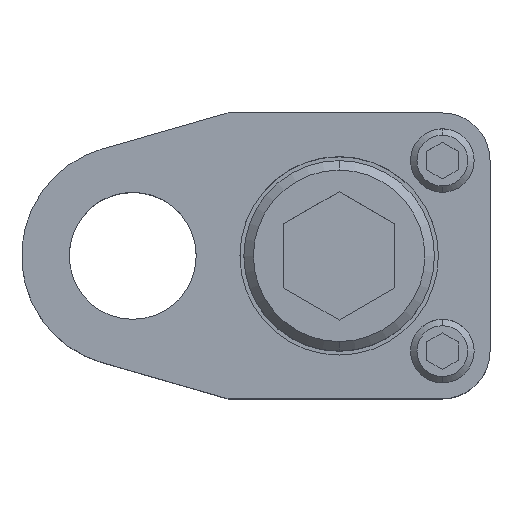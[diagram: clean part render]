
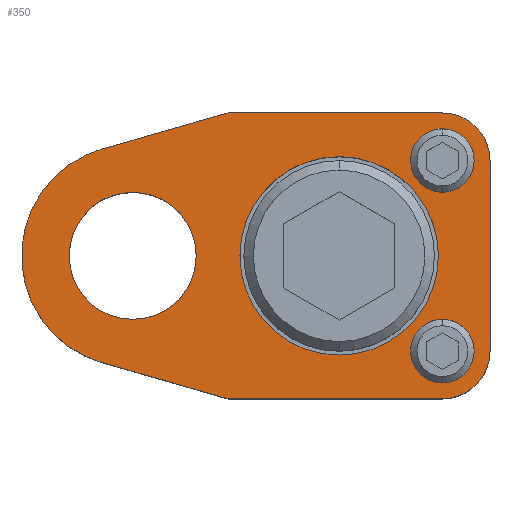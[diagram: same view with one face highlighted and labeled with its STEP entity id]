
A CAD part, top view. The second image highlights one B-rep face of the part: STEP entity #350.
In plain terms, the highlighted planar face has unit normal (0, 0, 1).
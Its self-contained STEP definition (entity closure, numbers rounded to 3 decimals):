
#177=FACE_BOUND('',#611,.T.);
#178=FACE_BOUND('',#612,.T.);
#179=FACE_BOUND('',#613,.T.);
#180=FACE_BOUND('',#614,.T.);
#181=FACE_BOUND('',#615,.T.);
#220=CIRCLE('',#1916,6.);
#223=CIRCLE('',#1922,6.);
#225=CIRCLE('',#1927,14.);
#227=CIRCLE('',#1931,4.);
#229=CIRCLE('',#1934,4.);
#231=CIRCLE('',#1937,4.);
#233=CIRCLE('',#1940,4.);
#238=CIRCLE('',#1948,12.5);
#239=CIRCLE('',#1949,12.5);
#240=CIRCLE('',#1950,8.);
#241=CIRCLE('',#1951,8.);
#350=ADVANCED_FACE('',(#177,#178,#179,#180,#181),#440,.T.);
#440=PLANE('',#1952);
#611=EDGE_LOOP('',(#888,#889,#890,#891,#892,#893,#894,#895));
#612=EDGE_LOOP('',(#896,#897));
#613=EDGE_LOOP('',(#898,#899));
#614=EDGE_LOOP('',(#900,#901));
#615=EDGE_LOOP('',(#902,#903));
#888=ORIENTED_EDGE('',*,*,#1407,.T.);
#889=ORIENTED_EDGE('',*,*,#1411,.T.);
#890=ORIENTED_EDGE('',*,*,#1414,.T.);
#891=ORIENTED_EDGE('',*,*,#1425,.T.);
#892=ORIENTED_EDGE('',*,*,#1433,.T.);
#893=ORIENTED_EDGE('',*,*,#1430,.T.);
#894=ORIENTED_EDGE('',*,*,#1417,.T.);
#895=ORIENTED_EDGE('',*,*,#1421,.T.);
#896=ORIENTED_EDGE('',*,*,#1457,.F.);
#897=ORIENTED_EDGE('',*,*,#1458,.F.);
#898=ORIENTED_EDGE('',*,*,#1450,.F.);
#899=ORIENTED_EDGE('',*,*,#1447,.F.);
#900=ORIENTED_EDGE('',*,*,#1444,.F.);
#901=ORIENTED_EDGE('',*,*,#1441,.F.);
#902=ORIENTED_EDGE('',*,*,#1459,.T.);
#903=ORIENTED_EDGE('',*,*,#1460,.T.);
#1226=VERTEX_POINT('',#2784);
#1227=VERTEX_POINT('',#2786);
#1230=VERTEX_POINT('',#2793);
#1232=VERTEX_POINT('',#2799);
#1234=VERTEX_POINT('',#2805);
#1235=VERTEX_POINT('',#2807);
#1240=VERTEX_POINT('',#2821);
#1244=VERTEX_POINT('',#2832);
#1250=VERTEX_POINT('',#2856);
#1251=VERTEX_POINT('',#2858);
#1254=VERTEX_POINT('',#2868);
#1255=VERTEX_POINT('',#2870);
#1260=VERTEX_POINT('',#2889);
#1261=VERTEX_POINT('',#2890);
#1262=VERTEX_POINT('',#2893);
#1263=VERTEX_POINT('',#2894);
#1407=EDGE_CURVE('',#1227,#1226,#1637,.T.);
#1411=EDGE_CURVE('',#1226,#1230,#220,.T.);
#1414=EDGE_CURVE('',#1230,#1232,#1642,.T.);
#1417=EDGE_CURVE('',#1235,#1234,#1645,.T.);
#1421=EDGE_CURVE('',#1234,#1227,#223,.T.);
#1425=EDGE_CURVE('',#1232,#1240,#1651,.T.);
#1430=EDGE_CURVE('',#1244,#1235,#1656,.T.);
#1433=EDGE_CURVE('',#1240,#1244,#225,.T.);
#1441=EDGE_CURVE('',#1250,#1251,#227,.T.);
#1444=EDGE_CURVE('',#1251,#1250,#229,.T.);
#1447=EDGE_CURVE('',#1254,#1255,#231,.T.);
#1450=EDGE_CURVE('',#1255,#1254,#233,.T.);
#1457=EDGE_CURVE('',#1260,#1261,#238,.T.);
#1458=EDGE_CURVE('',#1261,#1260,#239,.T.);
#1459=EDGE_CURVE('',#1262,#1263,#240,.T.);
#1460=EDGE_CURVE('',#1263,#1262,#241,.T.);
#1637=LINE('',#2785,#1777);
#1642=LINE('',#2800,#1782);
#1645=LINE('',#2806,#1785);
#1651=LINE('',#2822,#1791);
#1656=LINE('',#2831,#1796);
#1777=VECTOR('',#2224,1.);
#1782=VECTOR('',#2237,1.);
#1785=VECTOR('',#2242,1.);
#1791=VECTOR('',#2256,1.);
#1796=VECTOR('',#2263,1.);
#1916=AXIS2_PLACEMENT_3D('',#2794,#2230,#2231);
#1922=AXIS2_PLACEMENT_3D('',#2813,#2249,#2250);
#1927=AXIS2_PLACEMENT_3D('',#2836,#2269,#2270);
#1931=AXIS2_PLACEMENT_3D('',#2857,#2282,#2283);
#1934=AXIS2_PLACEMENT_3D('',#2862,#2289,#2290);
#1937=AXIS2_PLACEMENT_3D('',#2869,#2296,#2297);
#1940=AXIS2_PLACEMENT_3D('',#2874,#2303,#2304);
#1948=AXIS2_PLACEMENT_3D('',#2888,#2321,#2322);
#1949=AXIS2_PLACEMENT_3D('',#2891,#2323,#2324);
#1950=AXIS2_PLACEMENT_3D('',#2892,#2325,#2326);
#1951=AXIS2_PLACEMENT_3D('',#2895,#2327,#2328);
#1952=AXIS2_PLACEMENT_3D('',#2896,#2329,#2330);
#2224=DIRECTION('',(0.,1.,0.));
#2230=DIRECTION('',(0.,0.,1.));
#2231=DIRECTION('',(-0.707,-0.707,0.));
#2237=DIRECTION('',(-1.,0.,0.));
#2242=DIRECTION('',(1.,0.,0.));
#2249=DIRECTION('',(0.,0.,1.));
#2250=DIRECTION('',(-0.707,0.707,0.));
#2256=DIRECTION('',(-0.961,-0.275,0.));
#2263=DIRECTION('',(0.961,-0.275,0.));
#2269=DIRECTION('',(0.,0.,1.));
#2270=DIRECTION('',(0.,1.,0.));
#2282=DIRECTION('',(0.,0.,1.));
#2283=DIRECTION('',(-1.,0.,0.));
#2289=DIRECTION('',(0.,0.,1.));
#2290=DIRECTION('',(1.,0.,0.));
#2296=DIRECTION('',(0.,0.,1.));
#2297=DIRECTION('',(-1.,0.,0.));
#2303=DIRECTION('',(0.,0.,1.));
#2304=DIRECTION('',(1.,0.,0.));
#2321=DIRECTION('',(0.,0.,1.));
#2322=DIRECTION('',(1.,0.,0.));
#2323=DIRECTION('',(0.,0.,1.));
#2324=DIRECTION('',(-1.,0.,0.));
#2325=DIRECTION('',(0.,0.,-1.));
#2326=DIRECTION('',(-1.,0.,0.));
#2327=DIRECTION('',(0.,0.,-1.));
#2328=DIRECTION('',(1.,0.,0.));
#2329=DIRECTION('',(0.,0.,1.));
#2330=DIRECTION('',(0.,-1.,0.));
#2784=CARTESIAN_POINT('',(45.,12.,25.));
#2785=CARTESIAN_POINT('',(45.,-12.,25.));
#2786=CARTESIAN_POINT('',(45.,-12.,25.));
#2793=CARTESIAN_POINT('',(39.,18.,25.));
#2794=CARTESIAN_POINT('',(39.,12.,25.));
#2799=CARTESIAN_POINT('',(12.,18.,25.));
#2800=CARTESIAN_POINT('',(12.,18.,25.));
#2805=CARTESIAN_POINT('',(39.,-18.,25.));
#2806=CARTESIAN_POINT('',(12.,-18.,25.));
#2807=CARTESIAN_POINT('',(12.,-18.,25.));
#2813=CARTESIAN_POINT('',(39.,-12.,25.));
#2821=CARTESIAN_POINT('',(-3.855,13.459,25.));
#2822=CARTESIAN_POINT('',(12.,18.,25.));
#2831=CARTESIAN_POINT('',(12.,-18.,25.));
#2832=CARTESIAN_POINT('',(-3.855,-13.459,25.));
#2836=CARTESIAN_POINT('',(0.,0.,25.));
#2856=CARTESIAN_POINT('',(39.,8.,25.));
#2857=CARTESIAN_POINT('',(39.,12.,25.));
#2858=CARTESIAN_POINT('',(39.,16.,25.));
#2862=CARTESIAN_POINT('',(39.,12.,25.));
#2868=CARTESIAN_POINT('',(39.,-16.,25.));
#2869=CARTESIAN_POINT('',(39.,-12.,25.));
#2870=CARTESIAN_POINT('',(39.,-8.,25.));
#2874=CARTESIAN_POINT('',(39.,-12.,25.));
#2888=CARTESIAN_POINT('',(26.,0.,25.));
#2889=CARTESIAN_POINT('',(26.,12.5,25.));
#2890=CARTESIAN_POINT('',(26.,-12.5,25.));
#2891=CARTESIAN_POINT('',(26.,0.,25.));
#2892=CARTESIAN_POINT('',(0.,0.,25.));
#2893=CARTESIAN_POINT('',(0.,8.,25.));
#2894=CARTESIAN_POINT('',(0.,-8.,25.));
#2895=CARTESIAN_POINT('',(0.,0.,25.));
#2896=CARTESIAN_POINT('',(45.,-12.,25.));
